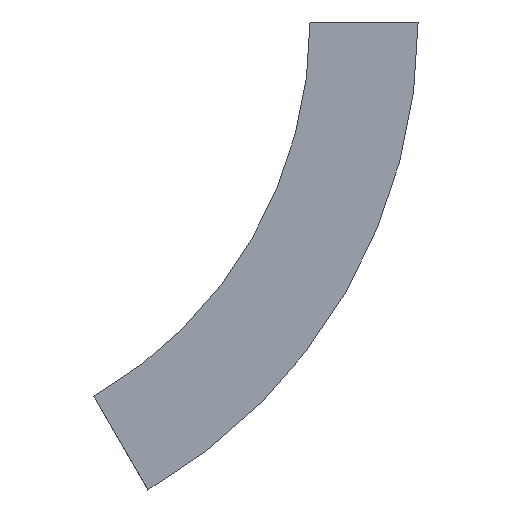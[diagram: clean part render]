
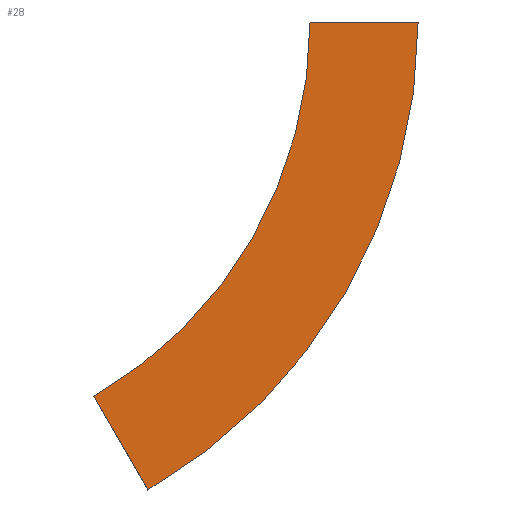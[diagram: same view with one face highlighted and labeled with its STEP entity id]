
A CAD part, left-side view. The second image highlights one B-rep face of the part: STEP entity #28.
In plain terms, the highlighted planar face has unit normal (-1, 0, 0) as drawn and (1, 0, 0) by its records, which use the part's own axes.
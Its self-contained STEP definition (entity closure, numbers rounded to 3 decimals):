
#4 = VERTEX_POINT ( 'NONE', #21 ) ;
#9 = CARTESIAN_POINT ( 'NONE',  ( 0., 112.5, -324.76 ) ) ;
#12 = CIRCLE ( 'NONE', #558, 300. ) ;
#21 = CARTESIAN_POINT ( 'NONE',  ( 0., 112.5, -324.76 ) ) ;
#25 = CIRCLE ( 'NONE', #359, 375. ) ;
#28 = ADVANCED_FACE ( 'NONE', ( #259 ), #202, .F. ) ;
#34 = VECTOR ( 'NONE', #536, 1000. ) ;
#56 = ORIENTED_EDGE ( 'NONE', *, *, #425, .F. ) ;
#76 = DIRECTION ( 'NONE',  ( -1., 0., 0. ) ) ;
#86 = EDGE_CURVE ( 'NONE', #111, #186, #12, .T. ) ;
#89 = ORIENTED_EDGE ( 'NONE', *, *, #86, .F. ) ;
#111 = VERTEX_POINT ( 'NONE', #497 ) ;
#136 = EDGE_CURVE ( 'NONE', #285, #4, #25, .T. ) ;
#158 = VECTOR ( 'NONE', #184, 1000. ) ;
#184 = DIRECTION ( 'NONE',  ( 0., 1., 0. ) ) ;
#186 = VERTEX_POINT ( 'NONE', #522 ) ;
#202 = PLANE ( 'NONE',  #416 ) ;
#222 = ORIENTED_EDGE ( 'NONE', *, *, #444, .T. ) ;
#234 = CARTESIAN_POINT ( 'NONE',  ( 0., 300., 0. ) ) ;
#241 = ORIENTED_EDGE ( 'NONE', *, *, #136, .T. ) ;
#259 = FACE_OUTER_BOUND ( 'NONE', #363, .T. ) ;
#285 = VERTEX_POINT ( 'NONE', #565 ) ;
#294 = LINE ( 'NONE', #374, #158 ) ;
#334 = DIRECTION ( 'NONE',  ( 0., -1., 0. ) ) ;
#359 = AXIS2_PLACEMENT_3D ( 'NONE', #234, #529, #460 ) ;
#363 = EDGE_LOOP ( 'NONE', ( #89, #56, #241, #222 ) ) ;
#370 = DIRECTION ( 'NONE',  ( 1., 0., 0. ) ) ;
#374 = CARTESIAN_POINT ( 'NONE',  ( 0., -75., 0. ) ) ;
#399 = DIRECTION ( 'NONE',  ( 0., 0., 1. ) ) ;
#414 = LINE ( 'NONE', #9, #34 ) ;
#416 = AXIS2_PLACEMENT_3D ( 'NONE', #553, #76, #399 ) ;
#425 = EDGE_CURVE ( 'NONE', #285, #111, #294, .T. ) ;
#444 = EDGE_CURVE ( 'NONE', #4, #186, #414, .T. ) ;
#460 = DIRECTION ( 'NONE',  ( 0., -1., 0. ) ) ;
#497 = CARTESIAN_POINT ( 'NONE',  ( 0., 0., 0. ) ) ;
#522 = CARTESIAN_POINT ( 'NONE',  ( 0., 150., -259.808 ) ) ;
#529 = DIRECTION ( 'NONE',  ( 1., 0., 0. ) ) ;
#532 = CARTESIAN_POINT ( 'NONE',  ( 0., 300., 0. ) ) ;
#536 = DIRECTION ( 'NONE',  ( 0., 0.5, 0.866 ) ) ;
#553 = CARTESIAN_POINT ( 'NONE',  ( 0., -75., 0. ) ) ;
#558 = AXIS2_PLACEMENT_3D ( 'NONE', #532, #370, #334 ) ;
#565 = CARTESIAN_POINT ( 'NONE',  ( 0., -75., 0. ) ) ;
